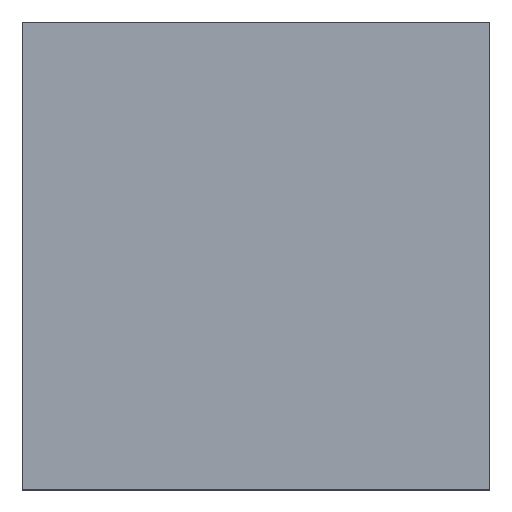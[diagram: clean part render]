
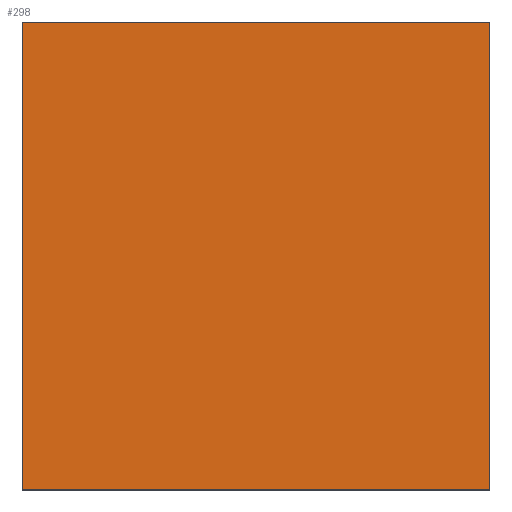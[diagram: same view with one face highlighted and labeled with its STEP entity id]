
A CAD part, top view. The second image highlights one B-rep face of the part: STEP entity #298.
In plain terms, the highlighted planar face has unit normal (0, 0, 1).
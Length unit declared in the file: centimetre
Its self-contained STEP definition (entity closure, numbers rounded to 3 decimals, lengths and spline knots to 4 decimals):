
#2 = CARTESIAN_POINT ( 'NONE',  ( 0., 0., 1000. ) ) ;
#18 = CARTESIAN_POINT ( 'NONE',  ( 0., 0., 1000. ) ) ;
#29 = VERTEX_POINT ( 'NONE', #179 ) ;
#50 = EDGE_CURVE ( 'NONE', #429, #168, #88, .T. ) ;
#62 = FACE_OUTER_BOUND ( 'NONE', #402, .T. ) ;
#87 = VECTOR ( 'NONE', #339, 100. ) ;
#88 = LINE ( 'NONE', #2, #122 ) ;
#105 = LINE ( 'NONE', #271, #328 ) ;
#122 = VECTOR ( 'NONE', #335, 100. ) ;
#151 = DIRECTION ( 'NONE',  ( 0., 0., 1. ) ) ;
#158 = CARTESIAN_POINT ( 'NONE',  ( 0., 0., 1000. ) ) ;
#159 = EDGE_CURVE ( 'NONE', #509, #29, #483, .T. ) ;
#168 = VERTEX_POINT ( 'NONE', #485 ) ;
#171 = CARTESIAN_POINT ( 'NONE',  ( 0., 1000., 1000. ) ) ;
#179 = CARTESIAN_POINT ( 'NONE',  ( 0., 1000., 1000. ) ) ;
#194 = DIRECTION ( 'NONE',  ( 1., 0., 0. ) ) ;
#204 = ORIENTED_EDGE ( 'NONE', *, *, #269, .T. ) ;
#214 = VECTOR ( 'NONE', #530, 100. ) ;
#250 = ORIENTED_EDGE ( 'NONE', *, *, #295, .T. ) ;
#252 = ORIENTED_EDGE ( 'NONE', *, *, #159, .T. ) ;
#269 = EDGE_CURVE ( 'NONE', #29, #429, #452, .T. ) ;
#271 = CARTESIAN_POINT ( 'NONE',  ( 1000., 1000., 1000. ) ) ;
#295 = EDGE_CURVE ( 'NONE', #168, #509, #105, .T. ) ;
#298 = ADVANCED_FACE ( 'NONE', ( #62 ), #388, .T. ) ;
#308 = CARTESIAN_POINT ( 'NONE',  ( 0., 1000., 1000. ) ) ;
#328 = VECTOR ( 'NONE', #424, 100. ) ;
#335 = DIRECTION ( 'NONE',  ( 1., 0., 0. ) ) ;
#337 = AXIS2_PLACEMENT_3D ( 'NONE', #18, #151, #194 ) ;
#339 = DIRECTION ( 'NONE',  ( 0., -1., 0. ) ) ;
#388 = PLANE ( 'NONE',  #337 ) ;
#402 = EDGE_LOOP ( 'NONE', ( #204, #476, #250, #252 ) ) ;
#410 = CARTESIAN_POINT ( 'NONE',  ( 1000., 1000., 1000. ) ) ;
#424 = DIRECTION ( 'NONE',  ( 0., 1., 0. ) ) ;
#429 = VERTEX_POINT ( 'NONE', #158 ) ;
#452 = LINE ( 'NONE', #308, #87 ) ;
#476 = ORIENTED_EDGE ( 'NONE', *, *, #50, .T. ) ;
#483 = LINE ( 'NONE', #171, #214 ) ;
#485 = CARTESIAN_POINT ( 'NONE',  ( 1000., 0., 1000. ) ) ;
#509 = VERTEX_POINT ( 'NONE', #410 ) ;
#530 = DIRECTION ( 'NONE',  ( -1., 0., 0. ) ) ;
